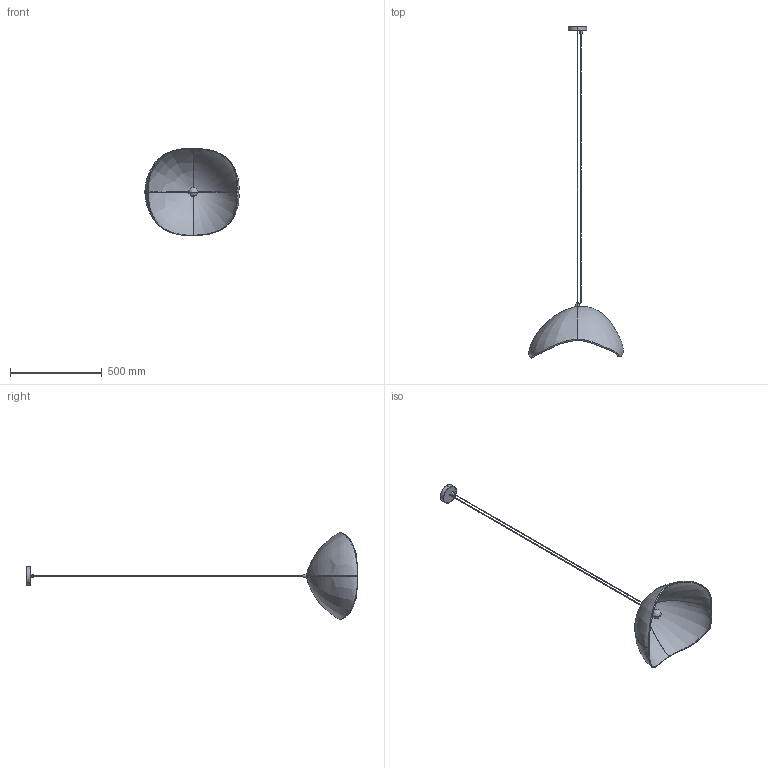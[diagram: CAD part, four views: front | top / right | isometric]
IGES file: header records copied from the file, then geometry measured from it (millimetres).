
Start section: SolidWorks IGES file using analytic representation for surfaces
Global section: file name: F:\燠隴矨\3D\Khmara Halia Pendant Lamp A.IGS,15; native system: HSolidWorks 2022; preprocessor: SolidWorks 2022; author: MyPC; date: 230408.141212; units: millimetre
Bounding box: 513.3 x 1807.42 x 476.54 mm (x, y, z)
Surface area: 785843.8 mm2 (no closed solid volume)
Topology: 0 solids, 0 shells, 87 faces, 2038 edges, 2027 vertices
Faces by surface type: bspline 87
